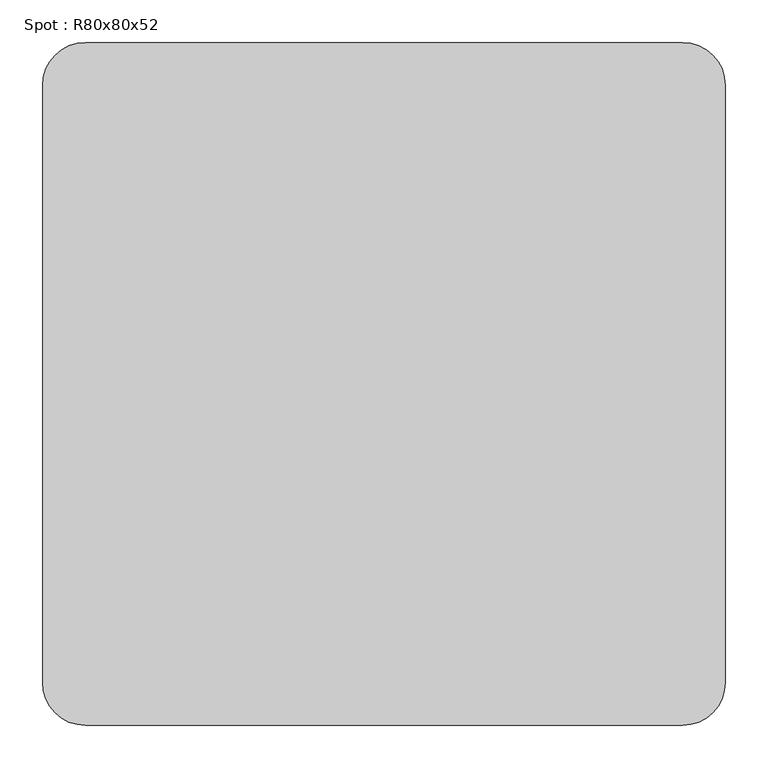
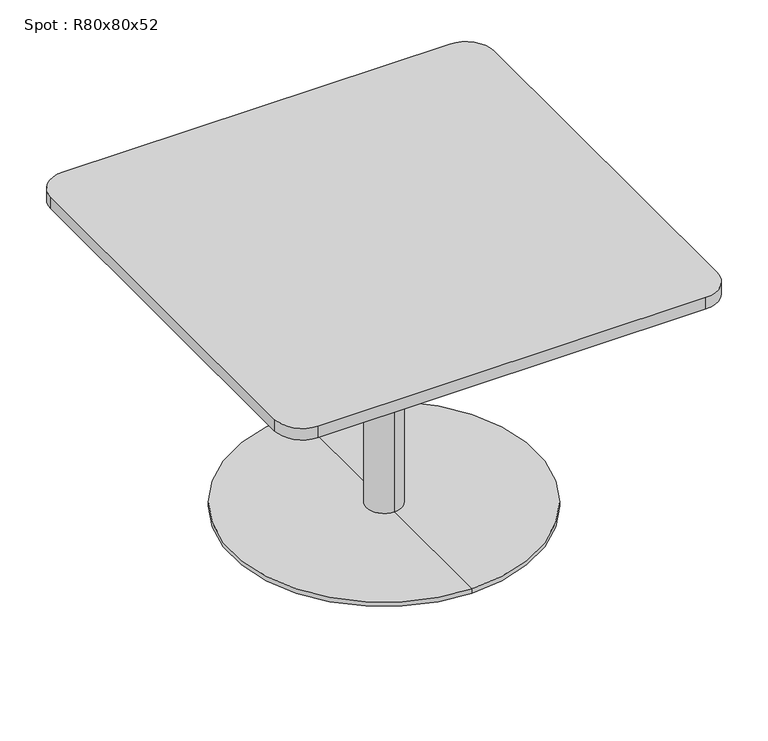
"""IFC4 building model written with IfcOpenShell, lengths in millimetres: furniture geometry, Spot : R80x80x52."""

from ifc_helpers import new_model, si_unit, point, frame, frame_2d, origin, place, context, project, spatial, polyline, circle_curve, trimmed, segment, composite_curve, outline, extrude, source, transform, mapped, element, save
from ifc_brep_helpers import plane_surface, cylinder_surface, revolved_surface, advanced_brep


def spot_r80x80x52_d650c14f(model_context):
    return source(origin(), model_context, "Body", "SolidModel", [
        extrude(outline(composite_curve([segment(trimmed(circle_curve(frame_2d((350.0, 350.0)), 50.0), [point((350.0, 400.0))], [point((400.0, 350.0))], False, "CARTESIAN"), True, "CONTINUOUS"), segment(polyline([(400.0, 350.0), (400.0, -350.0)]), True, "CONTINUOUS"), segment(trimmed(circle_curve(frame_2d((350.0, -350.0)), 50.0), [point((400.0, -350.0))], [point((350.0, -400.0))], False, "CARTESIAN"), True, "CONTINUOUS"), segment(polyline([(350.0, -400.0), (-350.0, -400.0)]), True, "CONTINUOUS"), segment(trimmed(circle_curve(frame_2d((-350.0, -350.0)), 50.0), [point((-350.0, -400.0))], [point((-400.0, -350.0))], False, "CARTESIAN"), True, "CONTINUOUS"), segment(polyline([(-400.0, -350.0), (-400.0, 350.0)]), True, "CONTINUOUS"), segment(trimmed(circle_curve(frame_2d((-350.0, 350.0)), 50.0), [point((-400.0, 350.0))], [point((-350.0, 400.0))], False, "CARTESIAN"), True, "CONTINUOUS"), segment(polyline([(-350.0, 400.0), (350.0, 400.0)]), True, "CONTINUOUS")], self_intersect=False)), frame((0.0, 0.0, 498.0), z_axis=(0.0, 0.0, 1.0), x_axis=(1.0, 0.0, 0.0)), (0.0, 0.0, 1.0), 22.0),
        advanced_brep(
        [(0.0, 32.0, 10.0), (0.0, -32.0, 10.0), (0.0, -32.0, 467.406916), (0.0, 32.0, 467.406916), (0.0, 275.0, 10.0), (0.0, -275.0, 10.0), (0.0, 275.0, 2.0), (0.0, -275.0, 2.0), (0.0, 0.0, 2.0), (0.0, 150.0, 498.0), (0.0, -150.0, 498.0), (0.0, 0.0, 498.0), (0.0, 150.0, 486.7213673), (0.0, -150.0, 486.7213673)],
        [
            (0, 1, circle_curve(frame((0.0, 0.0, 10.0), z_axis=(0.0, 0.0, 1.0), x_axis=(0.0, -1.0, 0.0)), 32.0)),
            (1, 2),
            (2, 3, circle_curve(frame((0.0, 0.0, 467.406916), z_axis=(0.0, 0.0, -1.0), x_axis=(0.0, -1.0, 0.0)), 32.0)),
            (3, 0),
            (1, 0, circle_curve(frame((0.0, 0.0, 10.0), z_axis=(0.0, 0.0, 1.0), x_axis=(0.0, -1.0, 0.0)), 32.0)),
            (3, 2, circle_curve(frame((0.0, 0.0, 467.406916), z_axis=(0.0, 0.0, -1.0), x_axis=(0.0, -1.0, 0.0)), 32.0)),
            (4, 5, circle_curve(frame((0.0, 0.0, 10.0), z_axis=(0.0, 0.0, 1.0), x_axis=(0.0, -1.0, 0.0)), 275.0)),
            (5, 1),
            (0, 4),
            (5, 4, circle_curve(frame((0.0, 0.0, 10.0), z_axis=(0.0, 0.0, 1.0), x_axis=(0.0, -1.0, 0.0)), 275.0)),
            (6, 7, circle_curve(frame((0.0, 0.0, 2.0), z_axis=(0.0, 0.0, 1.0), x_axis=(0.0, -1.0, 0.0)), 275.0)),
            (7, 5),
            (4, 6),
            (7, 6, circle_curve(frame((0.0, 0.0, 2.0), z_axis=(0.0, 0.0, 1.0), x_axis=(0.0, -1.0, 0.0)), 275.0)),
            (8, 7),
            (6, 8),
            (9, 10, circle_curve(frame((0.0, 0.0, 498.0), z_axis=(0.0, 0.0, 1.0), x_axis=(0.0, -1.0, 0.0)), 150.0)),
            (10, 11),
            (11, 9),
            (10, 9, circle_curve(frame((0.0, 0.0, 498.0), z_axis=(0.0, 0.0, 1.0), x_axis=(0.0, -1.0, 0.0)), 150.0)),
            (12, 13, circle_curve(frame((0.0, 0.0, 486.7213673), z_axis=(0.0, 0.0, 1.0), x_axis=(0.0, -1.0, 0.0)), 150.0)),
            (13, 10),
            (9, 12),
            (13, 12, circle_curve(frame((0.0, 0.0, 486.7213673), z_axis=(0.0, 0.0, 1.0), x_axis=(0.0, -1.0, 0.0)), 150.0)),
            (2, 13),
            (12, 3),
        ],
        [
            cylinder_surface(frame((0.0, 0.0, 860.0), z_axis=(0.0, 0.0, -1.0), x_axis=(0.0, -1.0, 0.0)), 32.0),
            plane_surface(frame((0.0, 0.0, 10.0), z_axis=(0.0, 0.0, 1.0), x_axis=(0.0, -1.0, 0.0))),
            cylinder_surface(frame((0.0, 0.0, 860.0), z_axis=(0.0, 0.0, -1.0), x_axis=(0.0, -1.0, 0.0)), 275.0),
            plane_surface(frame((0.0, 0.0, 2.0), z_axis=(0.0, 0.0, -1.0), x_axis=(0.0, -1.0, 0.0))),
            plane_surface(frame((0.0, 0.0, 498.0), z_axis=(0.0, 0.0, 1.0), x_axis=(0.0, -1.0, 0.0))),
            cylinder_surface(frame((0.0, 0.0, 860.0), z_axis=(0.0, 0.0, -1.0), x_axis=(0.0, -1.0, 0.0)), 150.0),
            revolved_surface(polyline([(0.0, -150.0, 486.7213673), (0.0, -32.0, 467.406916)]), (0.0, 0.0, 860.0), (0.0, 0.0, -1.0)),
        ],
        [
            (0, [[1, 2, 3, 4]]),
            (0, [[5, -4, 6, -2]]),
            (1, [[7, 8, -1, 9]]),
            (1, [[10, -9, -5, -8]]),
            (2, [[11, 12, -7, 13]]),
            (2, [[14, -13, -10, -12]]),
            (3, [[15, -11, 16]]),
            (3, [[-16, -14, -15]]),
            (4, [[17, 18, 19]]),
            (4, [[20, -19, -18]]),
            (5, [[21, 22, -17, 23]]),
            (5, [[24, -23, -20, -22]]),
            (6, [[-3, 25, -21, 26]]),
            (6, [[-6, -26, -24, -25]]),
        ],
    ),
    ])


if __name__ == "__main__":
    model = new_model("IFC4")
    model_context = context("Model", 3, world=origin())
    ifc_project = project(units=[si_unit("LENGTHUNIT", "METRE", prefix="MILLI")], contexts=[model_context])
    site = spatial("IfcSite", under=ifc_project)
    building = spatial("IfcBuilding", under=site)
    placement = place(None, origin())
    spot_r80x80x52_shape = spot_r80x80x52_d650c14f(model_context)
    element("IfcFurniture", 1, ObjectType="Spot : R80x80x52", at=placement, inside=building, context=model_context, shape_type="MappedRepresentation", body=[
        mapped(spot_r80x80x52_shape, transform((0.0, 0.0, 0.0), x_axis=(1.0, 0.0, 0.0), y_axis=(0.0, 1.0, 0.0), z_axis=(0.0, 0.0, 1.0))),
    ])
    save(model, "model.ifc")
